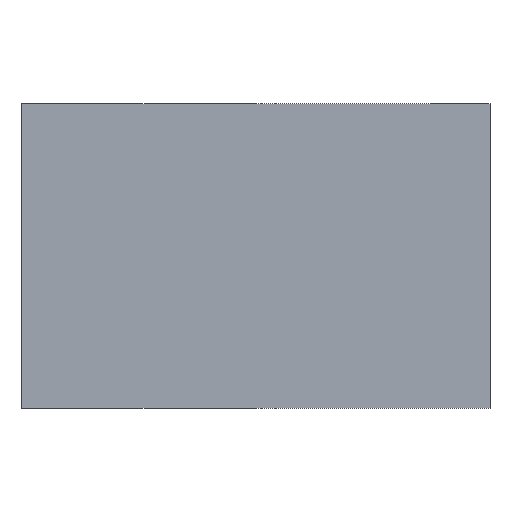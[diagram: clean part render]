
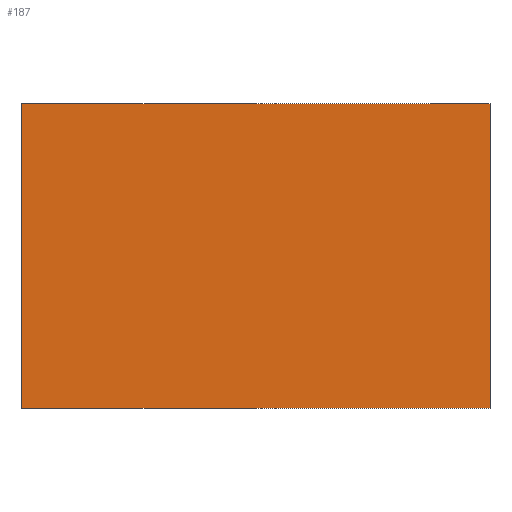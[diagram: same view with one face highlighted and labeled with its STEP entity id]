
A CAD part, top view. The second image highlights one B-rep face of the part: STEP entity #187.
In plain terms, the highlighted planar face has unit normal (0, 0, 1).
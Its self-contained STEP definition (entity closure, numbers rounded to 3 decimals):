
#33 = DIRECTION ( 'NONE',  ( 0., -1., 0. ) ) ;
#50 = CARTESIAN_POINT ( 'NONE',  ( 10., 11.1, 0. ) ) ;
#55 = CARTESIAN_POINT ( 'NONE',  ( -10., 11.1, 0. ) ) ;
#93 = LINE ( 'NONE', #55, #381 ) ;
#99 = EDGE_CURVE ( 'NONE', #585, #350, #437, .T. ) ;
#107 = CARTESIAN_POINT ( 'NONE',  ( 10., 11.1, 0. ) ) ;
#129 = AXIS2_PLACEMENT_3D ( 'NONE', #50, #283, #231 ) ;
#173 = VECTOR ( 'NONE', #33, 1000. ) ;
#185 = EDGE_CURVE ( 'NONE', #408, #581, #93, .T. ) ;
#187 = ADVANCED_FACE ( 'NONE', ( #588 ), #415, .F. ) ;
#194 = CARTESIAN_POINT ( 'NONE',  ( 10., -1.9, 0. ) ) ;
#207 = EDGE_CURVE ( 'NONE', #350, #581, #507, .T. ) ;
#218 = CARTESIAN_POINT ( 'NONE',  ( 10., 11.1, 0. ) ) ;
#231 = DIRECTION ( 'NONE',  ( 0., 1., 0. ) ) ;
#235 = ORIENTED_EDGE ( 'NONE', *, *, #185, .T. ) ;
#238 = ORIENTED_EDGE ( 'NONE', *, *, #99, .F. ) ;
#240 = DIRECTION ( 'NONE',  ( -1., 0., 0. ) ) ;
#260 = ORIENTED_EDGE ( 'NONE', *, *, #531, .T. ) ;
#283 = DIRECTION ( 'NONE',  ( 0., 0., -1. ) ) ;
#323 = CARTESIAN_POINT ( 'NONE',  ( 10., -1.9, 0. ) ) ;
#350 = VERTEX_POINT ( 'NONE', #194 ) ;
#362 = DIRECTION ( 'NONE',  ( 0., -1., 0. ) ) ;
#381 = VECTOR ( 'NONE', #362, 1000. ) ;
#408 = VERTEX_POINT ( 'NONE', #522 ) ;
#410 = VECTOR ( 'NONE', #240, 1000. ) ;
#412 = DIRECTION ( 'NONE',  ( -1., 0., 0. ) ) ;
#415 = PLANE ( 'NONE',  #129 ) ;
#437 = LINE ( 'NONE', #218, #173 ) ;
#464 = EDGE_LOOP ( 'NONE', ( #260, #235, #561, #238 ) ) ;
#507 = LINE ( 'NONE', #323, #555 ) ;
#508 = CARTESIAN_POINT ( 'NONE',  ( 10., 11.1, 0. ) ) ;
#522 = CARTESIAN_POINT ( 'NONE',  ( -10., 11.1, 0. ) ) ;
#531 = EDGE_CURVE ( 'NONE', #585, #408, #546, .T. ) ;
#546 = LINE ( 'NONE', #107, #410 ) ;
#554 = CARTESIAN_POINT ( 'NONE',  ( -10., -1.9, 0. ) ) ;
#555 = VECTOR ( 'NONE', #412, 1000. ) ;
#561 = ORIENTED_EDGE ( 'NONE', *, *, #207, .F. ) ;
#581 = VERTEX_POINT ( 'NONE', #554 ) ;
#585 = VERTEX_POINT ( 'NONE', #508 ) ;
#588 = FACE_OUTER_BOUND ( 'NONE', #464, .T. ) ;
